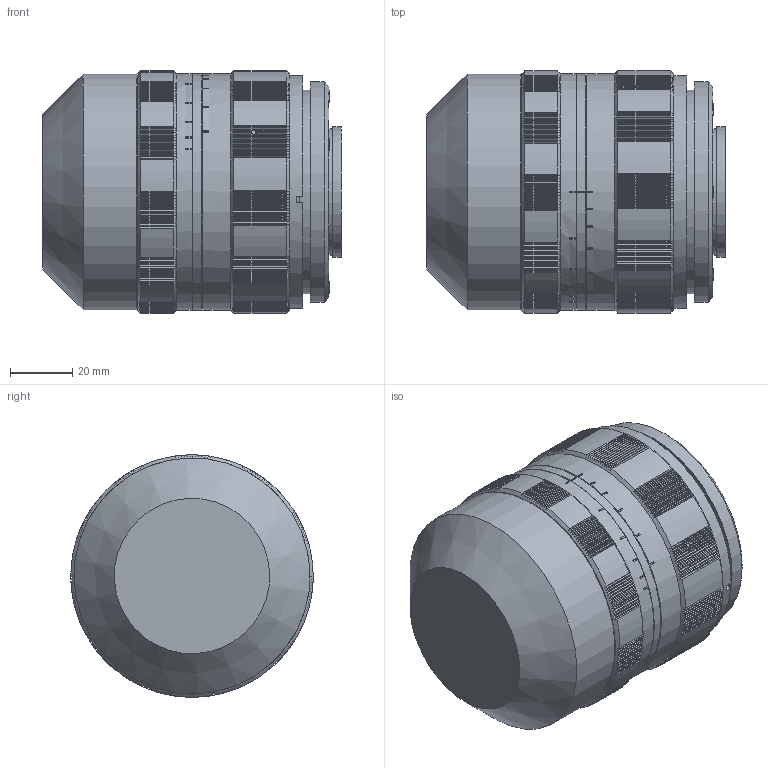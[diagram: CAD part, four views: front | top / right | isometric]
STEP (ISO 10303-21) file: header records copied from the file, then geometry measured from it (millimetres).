
FILE_DESCRIPTION(/* description */ (''),/* implementation_level */ '2;1');
FILE_NAME(/* name */ '\\10.0.0.209\Doc Produ\Meccaniche\STP\A_2004\C0416\C0416_000\C0416_057_000.stp',/* time_stamp */ '2016-06-14T08:57:27+02:00',/* author */ ('dblandino'),/* organization */ (''),/* preprocessor_version */ 'ST-DEVELOPER v16.1',/* originating_system */ 'Autodesk Inventor 2016',/* authorisation */ '');
FILE_SCHEMA (('CONFIG_CONTROL_DESIGN'));
Length unit declared in the file: millimetre
Products named in the file (2): C0416_053_000_Substitute_2; C0416_053_000
Assembly tree (1 placements, depth 2):
  C0416_053_000
    C0416_053_000_Substitute_2
Bounding box: 96.14 x 78 x 77.97 mm (x, y, z)
Volume: 403478.1 mm3; surface area: 37385.8 mm2
Topology: 1 solids, 1 shells, 977 faces, 2876 edges, 1919 vertices
Faces by surface type: plane 659, cylinder 304, cone 8, torus 6
Full cylindrical faces by diameter (mm): 1.567 x2, 40.7 x1, 42 x1, 65.5 x1, 67 x1, 70 x1, 71 x1, 71.5 x2, 73.5 x1, 75 x1, 76 x3
Entity records: 32111 total; most frequent: CARTESIAN_POINT 8042, ORIENTED_EDGE 5656, DIRECTION 4298, EDGE_CURVE 2828, VERTEX_POINT 1900, AXIS2_PLACEMENT_3D 1642, EDGE_LOOP 1024, LINE 1014
